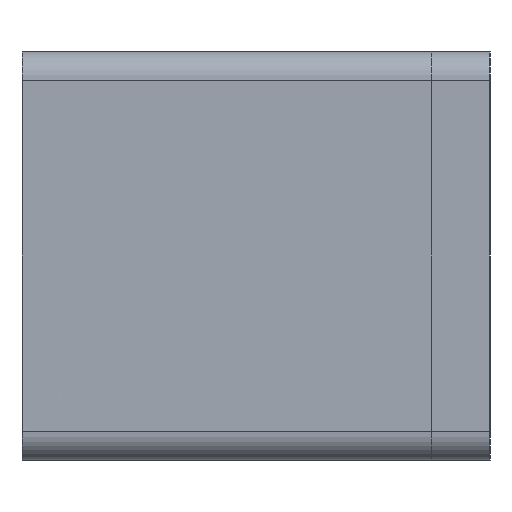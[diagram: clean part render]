
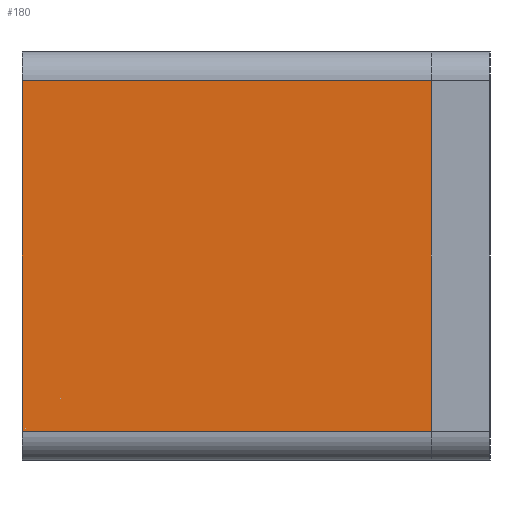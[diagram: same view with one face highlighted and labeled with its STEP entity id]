
A CAD part, left-side view. The second image highlights one B-rep face of the part: STEP entity #180.
In plain terms, the highlighted planar face has unit normal (-1, 0, 0).
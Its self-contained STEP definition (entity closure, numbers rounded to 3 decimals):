
#4 = VERTEX_POINT ( 'NONE', #727 ) ;
#8 = ORIENTED_EDGE ( 'NONE', *, *, #724, .F. ) ;
#11 = LINE ( 'NONE', #404, #1009 ) ;
#14 = EDGE_CURVE ( 'NONE', #611, #4, #735, .T. ) ;
#106 = CARTESIAN_POINT ( 'NONE',  ( -12.5, 2., -6. ) ) ;
#145 = PLANE ( 'NONE',  #477 ) ;
#180 = ADVANCED_FACE ( 'NONE', ( #996 ), #145, .F. ) ;
#284 = LINE ( 'NONE', #301, #480 ) ;
#301 = CARTESIAN_POINT ( 'NONE',  ( -12.5, 2., 7. ) ) ;
#394 = VECTOR ( 'NONE', #1162, 1000. ) ;
#396 = CARTESIAN_POINT ( 'NONE',  ( -12.5, 2., 6. ) ) ;
#400 = DIRECTION ( 'NONE',  ( 1., 0., 0. ) ) ;
#404 = CARTESIAN_POINT ( 'NONE',  ( -12.5, 16., 7. ) ) ;
#427 = DIRECTION ( 'NONE',  ( 0., 0., 1. ) ) ;
#477 = AXIS2_PLACEMENT_3D ( 'NONE', #602, #400, #906 ) ;
#480 = VECTOR ( 'NONE', #427, 1000. ) ;
#602 = CARTESIAN_POINT ( 'NONE',  ( -12.5, 16., 7. ) ) ;
#611 = VERTEX_POINT ( 'NONE', #396 ) ;
#653 = CARTESIAN_POINT ( 'NONE',  ( -12.5, 16., 6. ) ) ;
#655 = CARTESIAN_POINT ( 'NONE',  ( -12.5, 16., -6. ) ) ;
#704 = DIRECTION ( 'NONE',  ( 0., 1., 0. ) ) ;
#724 = EDGE_CURVE ( 'NONE', #1168, #4, #11, .T. ) ;
#727 = CARTESIAN_POINT ( 'NONE',  ( -12.5, 16., 6. ) ) ;
#735 = LINE ( 'NONE', #653, #1247 ) ;
#811 = CARTESIAN_POINT ( 'NONE',  ( -12.5, 16., -6. ) ) ;
#827 = EDGE_CURVE ( 'NONE', #905, #611, #284, .T. ) ;
#859 = ORIENTED_EDGE ( 'NONE', *, *, #14, .T. ) ;
#869 = DIRECTION ( 'NONE',  ( 0., 0., 1. ) ) ;
#872 = ORIENTED_EDGE ( 'NONE', *, *, #984, .T. ) ;
#905 = VERTEX_POINT ( 'NONE', #106 ) ;
#906 = DIRECTION ( 'NONE',  ( 0., 0., -1. ) ) ;
#984 = EDGE_CURVE ( 'NONE', #1168, #905, #1147, .T. ) ;
#996 = FACE_OUTER_BOUND ( 'NONE', #1069, .T. ) ;
#1009 = VECTOR ( 'NONE', #869, 1000. ) ;
#1069 = EDGE_LOOP ( 'NONE', ( #1145, #859, #8, #872 ) ) ;
#1145 = ORIENTED_EDGE ( 'NONE', *, *, #827, .T. ) ;
#1147 = LINE ( 'NONE', #655, #394 ) ;
#1162 = DIRECTION ( 'NONE',  ( 0., -1., 0. ) ) ;
#1168 = VERTEX_POINT ( 'NONE', #811 ) ;
#1247 = VECTOR ( 'NONE', #704, 1000. ) ;
